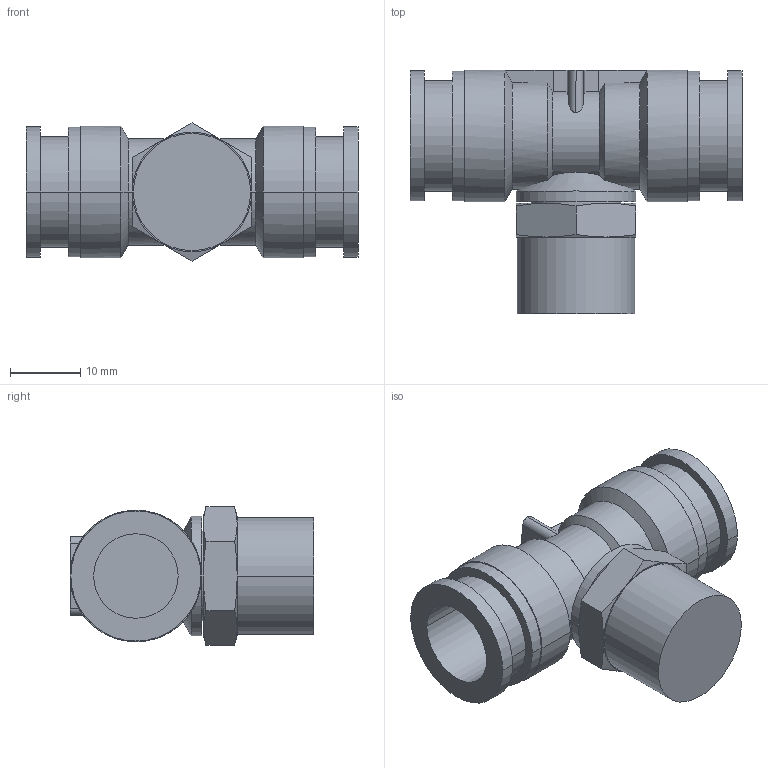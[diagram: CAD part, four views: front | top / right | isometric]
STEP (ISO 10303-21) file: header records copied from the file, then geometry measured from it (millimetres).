
FILE_DESCRIPTION( ( '' ), '1' );
FILE_NAME( 'G:/SMC狟婥/KQ2T12-03AS.stp', '2023-03-07T03:13:38', ( '' ), ( '' ), ' ', ' ', ' ' );
FILE_SCHEMA( ( 'CONFIG_CONTROL_DESIGN' ) );
Length unit declared in the file: millimetre
Products named in the file (1): 1
Bounding box: 47.2 x 34.65 x 19.63 mm (x, y, z)
Volume: 10257.2 mm3; surface area: 6403.9 mm2
Topology: 1 solids, 1 shells, 95 faces, 222 edges, 140 vertices
Faces by surface type: cylinder 40, plane 33, cone 22
Entity records: 3011 total; most frequent: CARTESIAN_POINT 833, DIRECTION 464, ORIENTED_EDGE 444, EDGE_CURVE 222, AXIS2_PLACEMENT_3D 196, VERTEX_POINT 140, EDGE_LOOP 106, ADVANCED_FACE 95
